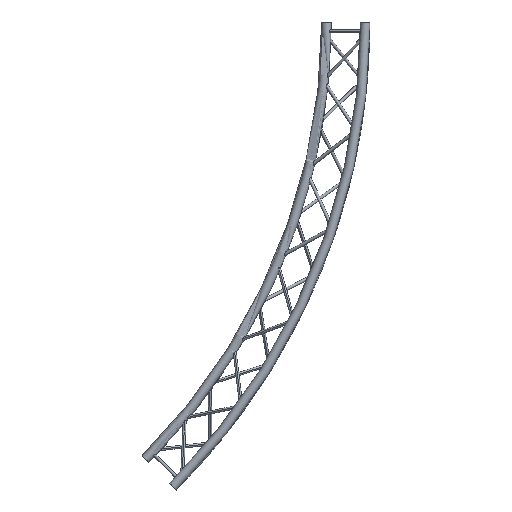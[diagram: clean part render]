
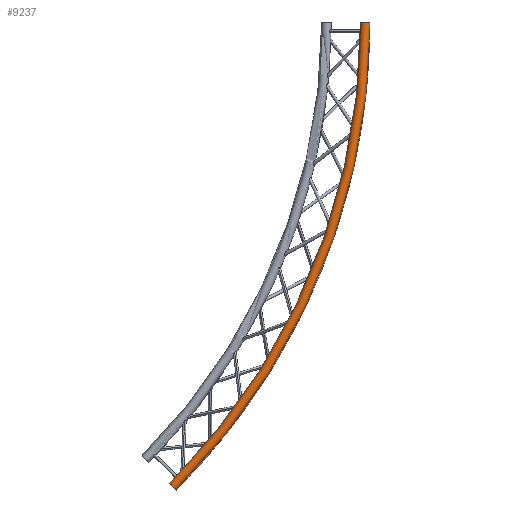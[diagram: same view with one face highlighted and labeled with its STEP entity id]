
A CAD part, front view. The second image highlights one B-rep face of the part: STEP entity #9237.
In plain terms, the highlighted toroidal (fillet/blend) face has major radius 3475 mm and minor radius 25 mm.
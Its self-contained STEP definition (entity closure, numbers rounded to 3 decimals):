
#4997 = DIRECTION ( 'NONE',  ( 0., 0., -1. ) ) ;
#4998 = DIRECTION ( 'NONE',  ( 0., -1., 0. ) ) ;
#4999 = CARTESIAN_POINT ( 'NONE',  ( 0., -118.5, 0. ) ) ;
#5000 = AXIS2_PLACEMENT_3D ( 'NONE', #4999, #4998, #4997 ) ;
#5001 = CIRCLE ( 'NONE', #5000, 3450. ) ;
#5192 = CARTESIAN_POINT ( 'NONE',  ( 3450., -118.5, 0. ) ) ;
#5410 = DIRECTION ( 'NONE',  ( 1., 0., 0. ) ) ;
#5411 = DIRECTION ( 'NONE',  ( 0., 0., 1. ) ) ;
#5412 = CARTESIAN_POINT ( 'NONE',  ( 3475., -118.5, 0. ) ) ;
#5413 = AXIS2_PLACEMENT_3D ( 'NONE', #5412, #5411, #5410 ) ;
#5414 = CIRCLE ( 'NONE', #5413, 25. ) ;
#7868 = DIRECTION ( 'NONE',  ( 0., 0., -1. ) ) ;
#7869 = DIRECTION ( 'NONE',  ( 0., -1., 0. ) ) ;
#7870 = AXIS2_PLACEMENT_3D ( 'NONE', #7871, #7869, #7868 ) ;
#7871 = CARTESIAN_POINT ( 'NONE',  ( 0., -118.5, 0. ) ) ;
#7872 = TOROIDAL_SURFACE ( 'NONE', #7870, 3475., 25. ) ;
#7873 = FACE_OUTER_BOUND ( 'NONE', #8880, .T. ) ;
#8313 = CARTESIAN_POINT ( 'NONE',  ( 2439.518, -118.5, -2439.518 ) ) ;
#8344 = CARTESIAN_POINT ( 'NONE',  ( 2474.874, -118.5, -2474.874 ) ) ;
#8449 = CARTESIAN_POINT ( 'NONE',  ( 3500., -118.5, 0. ) ) ;
#8454 = DIRECTION ( 'NONE',  ( 0., 0., -1. ) ) ;
#8455 = DIRECTION ( 'NONE',  ( 0., -1., 0. ) ) ;
#8456 = AXIS2_PLACEMENT_3D ( 'NONE', #8463, #8455, #8454 ) ;
#8457 = CIRCLE ( 'NONE', #8456, 3500. ) ;
#8458 = DIRECTION ( 'NONE',  ( 0.707, 0., -0.707 ) ) ;
#8459 = DIRECTION ( 'NONE',  ( 0.707, 0., 0.707 ) ) ;
#8460 = CARTESIAN_POINT ( 'NONE',  ( 2457.196, -118.5, -2457.196 ) ) ;
#8461 = AXIS2_PLACEMENT_3D ( 'NONE', #8460, #8459, #8458 ) ;
#8462 = CIRCLE ( 'NONE', #8461, 25. ) ;
#8463 = CARTESIAN_POINT ( 'NONE',  ( 0., -118.5, 0. ) ) ;
#8835 = EDGE_CURVE ( 'NONE', #9282, #8846, #5001, .T. ) ;
#8846 = VERTEX_POINT ( 'NONE', #5192 ) ;
#8875 = EDGE_CURVE ( 'NONE', #8846, #9292, #5414, .T. ) ;
#8878 = ORIENTED_EDGE ( 'NONE', *, *, #8875, .F. ) ;
#8880 = EDGE_LOOP ( 'NONE', ( #9242, #9291, #8878, #8887 ) ) ;
#8887 = ORIENTED_EDGE ( 'NONE', *, *, #8835, .F. ) ;
#9237 = ADVANCED_FACE ( 'NONE', ( #7873 ), #7872, .T. ) ;
#9242 = ORIENTED_EDGE ( 'NONE', *, *, #9288, .T. ) ;
#9282 = VERTEX_POINT ( 'NONE', #8313 ) ;
#9286 = VERTEX_POINT ( 'NONE', #8344 ) ;
#9288 = EDGE_CURVE ( 'NONE', #9282, #9286, #8462, .T. ) ;
#9289 = EDGE_CURVE ( 'NONE', #9286, #9292, #8457, .T. ) ;
#9291 = ORIENTED_EDGE ( 'NONE', *, *, #9289, .T. ) ;
#9292 = VERTEX_POINT ( 'NONE', #8449 ) ;
